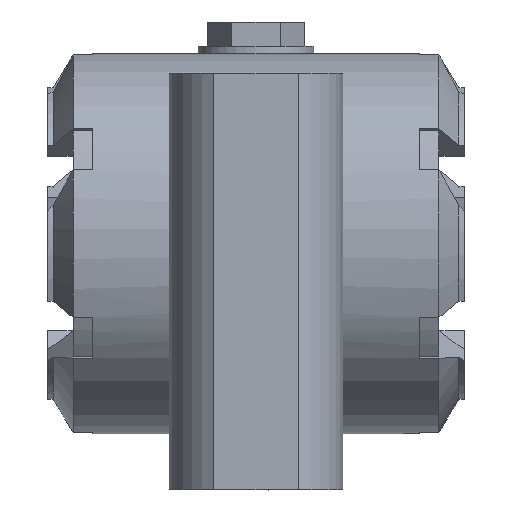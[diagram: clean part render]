
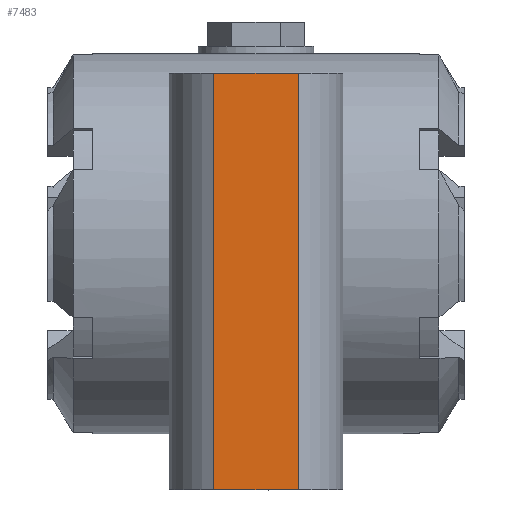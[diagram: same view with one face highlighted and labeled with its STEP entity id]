
A CAD part, front view. The second image highlights one B-rep face of the part: STEP entity #7483.
In plain terms, the highlighted planar face has unit normal (0, -1, 0).
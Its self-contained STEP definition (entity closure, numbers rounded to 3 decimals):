
#3043=LINE('',#47625,#5838);
#3045=LINE('',#47631,#5840);
#3046=LINE('',#47633,#5841);
#3047=LINE('',#47635,#5842);
#5838=VECTOR('',#31678,1.);
#5840=VECTOR('',#31684,1.);
#5841=VECTOR('',#31685,1.);
#5842=VECTOR('',#31686,1.);
#7483=ADVANCED_FACE('',(#9492),#8210,.F.);
#8210=PLANE('',#26906);
#9492=FACE_OUTER_BOUND('',#10958,.T.);
#10958=EDGE_LOOP('',(#18191,#18192,#18193,#18194));
#18191=ORIENTED_EDGE('',*,*,#24249,.T.);
#18192=ORIENTED_EDGE('',*,*,#24252,.T.);
#18193=ORIENTED_EDGE('',*,*,#24253,.T.);
#18194=ORIENTED_EDGE('',*,*,#24254,.F.);
#20629=VERTEX_POINT('',#47624);
#20630=VERTEX_POINT('',#47626);
#20632=VERTEX_POINT('',#47632);
#20633=VERTEX_POINT('',#47634);
#24249=EDGE_CURVE('',#20630,#20629,#3043,.T.);
#24252=EDGE_CURVE('',#20629,#20632,#3045,.T.);
#24253=EDGE_CURVE('',#20632,#20633,#3046,.T.);
#24254=EDGE_CURVE('',#20630,#20633,#3047,.T.);
#26906=AXIS2_PLACEMENT_3D('',#47636,#31687,#31688);
#31678=DIRECTION('',(0.,0.,1.));
#31684=DIRECTION('',(-1.,0.,0.));
#31685=DIRECTION('',(0.,0.,-1.));
#31686=DIRECTION('',(-1.,0.,0.));
#31687=DIRECTION('',(0.,1.,0.));
#31688=DIRECTION('',(-1.,0.,0.));
#47624=CARTESIAN_POINT('',(11.619,-33.5,47.));
#47625=CARTESIAN_POINT('',(11.619,-33.5,-92.65));
#47626=CARTESIAN_POINT('',(11.619,-33.5,-68.));
#47631=CARTESIAN_POINT('',(0.,-33.5,47.));
#47632=CARTESIAN_POINT('',(-11.619,-33.5,47.));
#47633=CARTESIAN_POINT('',(-11.619,-33.5,-92.65));
#47634=CARTESIAN_POINT('',(-11.619,-33.5,-68.));
#47635=CARTESIAN_POINT('',(0.,-33.5,-68.));
#47636=CARTESIAN_POINT('',(0.,-33.5,0.));
